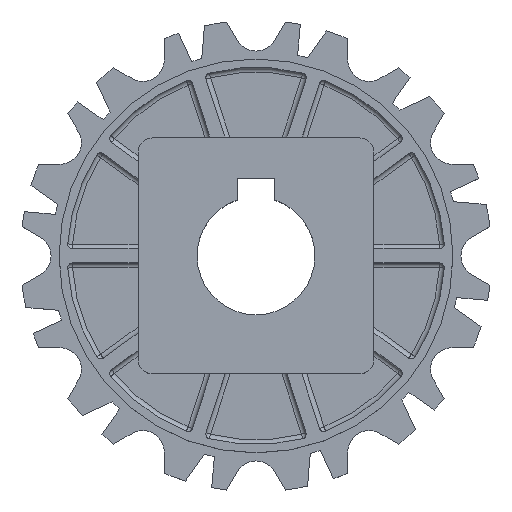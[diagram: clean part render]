
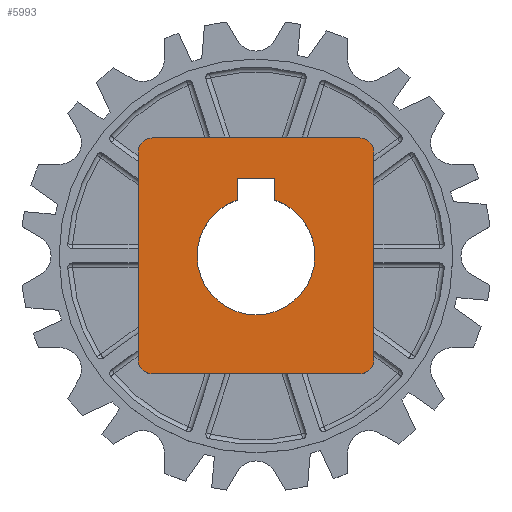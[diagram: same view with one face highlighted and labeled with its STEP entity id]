
A CAD part, top view. The second image highlights one B-rep face of the part: STEP entity #5993.
In plain terms, the highlighted planar face has unit normal (0, 0, 1).
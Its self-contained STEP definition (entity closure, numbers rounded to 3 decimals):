
#18 = DIRECTION ( 'NONE',  ( 0., 1., 0. ) ) ;
#164 = CIRCLE ( 'NONE', #6079, 12.5 ) ;
#310 = CARTESIAN_POINT ( 'NONE',  ( 25., -22., 17.875 ) ) ;
#474 = AXIS2_PLACEMENT_3D ( 'NONE', #5404, #9596, #7875 ) ;
#493 = FACE_BOUND ( 'NONE', #8230, .T. ) ;
#745 = VERTEX_POINT ( 'NONE', #898 ) ;
#779 = CARTESIAN_POINT ( 'NONE',  ( 0., 0., 17.875 ) ) ;
#864 = DIRECTION ( 'NONE',  ( 1., 0., 0. ) ) ;
#865 = CARTESIAN_POINT ( 'NONE',  ( 22., -25., 17.875 ) ) ;
#898 = CARTESIAN_POINT ( 'NONE',  ( -22., 25., 17.875 ) ) ;
#935 = ORIENTED_EDGE ( 'NONE', *, *, #5475, .T. ) ;
#975 = DIRECTION ( 'NONE',  ( -1., 0., 0. ) ) ;
#1396 = CARTESIAN_POINT ( 'NONE',  ( -25., -22., 17.875 ) ) ;
#1452 = VECTOR ( 'NONE', #9871, 1000. ) ;
#1490 = CARTESIAN_POINT ( 'NONE',  ( -22., -25., 17.875 ) ) ;
#1604 = VECTOR ( 'NONE', #975, 1000. ) ;
#1775 = AXIS2_PLACEMENT_3D ( 'NONE', #11054, #3403, #864 ) ;
#1785 = VECTOR ( 'NONE', #5619, 1000. ) ;
#2081 = AXIS2_PLACEMENT_3D ( 'NONE', #8390, #9067, #7558 ) ;
#2324 = CARTESIAN_POINT ( 'NONE',  ( -4., 11.843, 17.875 ) ) ;
#2382 = DIRECTION ( 'NONE',  ( 1., 0., 0. ) ) ;
#2459 = LINE ( 'NONE', #10956, #9774 ) ;
#2463 = CIRCLE ( 'NONE', #474, 12.5 ) ;
#2551 = ORIENTED_EDGE ( 'NONE', *, *, #9728, .T. ) ;
#2601 = CARTESIAN_POINT ( 'NONE',  ( -4., 16.5, 17.875 ) ) ;
#2682 = CIRCLE ( 'NONE', #1775, 3. ) ;
#2765 = DIRECTION ( 'NONE',  ( 1., 0., 0. ) ) ;
#2880 = CARTESIAN_POINT ( 'NONE',  ( 12.5, 0., 17.875 ) ) ;
#3014 = DIRECTION ( 'NONE',  ( 0., 0., -1. ) ) ;
#3020 = CIRCLE ( 'NONE', #5512, 12.5 ) ;
#3133 = CIRCLE ( 'NONE', #4550, 3. ) ;
#3244 = EDGE_CURVE ( 'NONE', #7704, #7346, #3558, .T. ) ;
#3270 = CARTESIAN_POINT ( 'NONE',  ( 22., -22., 17.875 ) ) ;
#3276 = LINE ( 'NONE', #2324, #1785 ) ;
#3403 = DIRECTION ( 'NONE',  ( 0., 0., 1. ) ) ;
#3558 = LINE ( 'NONE', #2601, #9391 ) ;
#3566 = LINE ( 'NONE', #7701, #3746 ) ;
#3616 = CARTESIAN_POINT ( 'NONE',  ( 0., -25., 17.875 ) ) ;
#3746 = VECTOR ( 'NONE', #18, 1000. ) ;
#3889 = DIRECTION ( 'NONE',  ( 0., 0., 1. ) ) ;
#3897 = VECTOR ( 'NONE', #7805, 1000. ) ;
#3911 = CARTESIAN_POINT ( 'NONE',  ( 0., 0., 17.875 ) ) ;
#3934 = FACE_OUTER_BOUND ( 'NONE', #5513, .T. ) ;
#4117 = ORIENTED_EDGE ( 'NONE', *, *, #4929, .T. ) ;
#4197 = VERTEX_POINT ( 'NONE', #9423 ) ;
#4449 = EDGE_CURVE ( 'NONE', #10741, #4974, #3133, .T. ) ;
#4550 = AXIS2_PLACEMENT_3D ( 'NONE', #3270, #5728, #10862 ) ;
#4637 = DIRECTION ( 'NONE',  ( -1., 0., 0. ) ) ;
#4785 = DIRECTION ( 'NONE',  ( 0., 0., 1. ) ) ;
#4827 = AXIS2_PLACEMENT_3D ( 'NONE', #10872, #3889, #2382 ) ;
#4929 = EDGE_CURVE ( 'NONE', #4197, #8755, #164, .T. ) ;
#4937 = ORIENTED_EDGE ( 'NONE', *, *, #9996, .T. ) ;
#4974 = VERTEX_POINT ( 'NONE', #310 ) ;
#4979 = VERTEX_POINT ( 'NONE', #7833 ) ;
#4983 = PLANE ( 'NONE',  #2081 ) ;
#5234 = LINE ( 'NONE', #8644, #1604 ) ;
#5404 = CARTESIAN_POINT ( 'NONE',  ( 0., 0., 17.875 ) ) ;
#5475 = EDGE_CURVE ( 'NONE', #745, #4979, #7074, .T. ) ;
#5512 = AXIS2_PLACEMENT_3D ( 'NONE', #3911, #3014, #4637 ) ;
#5513 = EDGE_LOOP ( 'NONE', ( #6634, #2551, #935, #10365, #4937, #6930, #8722, #6039 ) ) ;
#5619 = DIRECTION ( 'NONE',  ( 0., 1., 0. ) ) ;
#5728 = DIRECTION ( 'NONE',  ( 0., 0., 1. ) ) ;
#5870 = DIRECTION ( 'NONE',  ( 0., -1., 0. ) ) ;
#5993 = ADVANCED_FACE ( 'NONE', ( #493, #3934 ), #4983, .T. ) ;
#6002 = VERTEX_POINT ( 'NONE', #1396 ) ;
#6039 = ORIENTED_EDGE ( 'NONE', *, *, #9713, .T. ) ;
#6079 = AXIS2_PLACEMENT_3D ( 'NONE', #779, #8557, #8616 ) ;
#6449 = EDGE_CURVE ( 'NONE', #7346, #9221, #2459, .T. ) ;
#6465 = DIRECTION ( 'NONE',  ( 1., 0., 0. ) ) ;
#6477 = CARTESIAN_POINT ( 'NONE',  ( -4., 16.5, 17.875 ) ) ;
#6483 = CARTESIAN_POINT ( 'NONE',  ( 25., 22., 17.875 ) ) ;
#6518 = CARTESIAN_POINT ( 'NONE',  ( -22., 22., 17.875 ) ) ;
#6570 = EDGE_CURVE ( 'NONE', #9221, #6908, #2463, .T. ) ;
#6622 = ORIENTED_EDGE ( 'NONE', *, *, #3244, .T. ) ;
#6630 = CARTESIAN_POINT ( 'NONE',  ( -25., 0., 17.875 ) ) ;
#6634 = ORIENTED_EDGE ( 'NONE', *, *, #9712, .T. ) ;
#6908 = VERTEX_POINT ( 'NONE', #2880 ) ;
#6925 = EDGE_CURVE ( 'NONE', #8459, #10741, #7966, .T. ) ;
#6930 = ORIENTED_EDGE ( 'NONE', *, *, #6925, .T. ) ;
#6980 = VERTEX_POINT ( 'NONE', #9642 ) ;
#6999 = CARTESIAN_POINT ( 'NONE',  ( 4., 16.5, 17.875 ) ) ;
#7074 = CIRCLE ( 'NONE', #8153, 3. ) ;
#7346 = VERTEX_POINT ( 'NONE', #6999 ) ;
#7558 = DIRECTION ( 'NONE',  ( 1., 0., 0. ) ) ;
#7692 = ORIENTED_EDGE ( 'NONE', *, *, #6570, .T. ) ;
#7701 = CARTESIAN_POINT ( 'NONE',  ( 25., 0., 17.875 ) ) ;
#7704 = VERTEX_POINT ( 'NONE', #6477 ) ;
#7730 = EDGE_CURVE ( 'NONE', #6908, #4197, #3020, .T. ) ;
#7805 = DIRECTION ( 'NONE',  ( 1., 0., 0. ) ) ;
#7833 = CARTESIAN_POINT ( 'NONE',  ( -25., 22., 17.875 ) ) ;
#7875 = DIRECTION ( 'NONE',  ( -1., 0., 0. ) ) ;
#7963 = VERTEX_POINT ( 'NONE', #6483 ) ;
#7966 = LINE ( 'NONE', #3616, #3897 ) ;
#8033 = CIRCLE ( 'NONE', #4827, 3. ) ;
#8153 = AXIS2_PLACEMENT_3D ( 'NONE', #6518, #4785, #6465 ) ;
#8230 = EDGE_LOOP ( 'NONE', ( #10847, #7692, #9926, #4117, #10325, #6622 ) ) ;
#8390 = CARTESIAN_POINT ( 'NONE',  ( 0., 0., 17.875 ) ) ;
#8459 = VERTEX_POINT ( 'NONE', #1490 ) ;
#8557 = DIRECTION ( 'NONE',  ( 0., 0., -1. ) ) ;
#8616 = DIRECTION ( 'NONE',  ( -1., 0., 0. ) ) ;
#8644 = CARTESIAN_POINT ( 'NONE',  ( 0., 25., 17.875 ) ) ;
#8722 = ORIENTED_EDGE ( 'NONE', *, *, #4449, .T. ) ;
#8755 = VERTEX_POINT ( 'NONE', #10704 ) ;
#9067 = DIRECTION ( 'NONE',  ( 0., 0., 1. ) ) ;
#9221 = VERTEX_POINT ( 'NONE', #11010 ) ;
#9391 = VECTOR ( 'NONE', #2765, 1000. ) ;
#9423 = CARTESIAN_POINT ( 'NONE',  ( -12.5, 0., 17.875 ) ) ;
#9596 = DIRECTION ( 'NONE',  ( 0., 0., -1. ) ) ;
#9642 = CARTESIAN_POINT ( 'NONE',  ( 22., 25., 17.875 ) ) ;
#9712 = EDGE_CURVE ( 'NONE', #7963, #6980, #2682, .T. ) ;
#9713 = EDGE_CURVE ( 'NONE', #4974, #7963, #3566, .T. ) ;
#9728 = EDGE_CURVE ( 'NONE', #6980, #745, #5234, .T. ) ;
#9774 = VECTOR ( 'NONE', #5870, 1000. ) ;
#9871 = DIRECTION ( 'NONE',  ( 0., -1., 0. ) ) ;
#9926 = ORIENTED_EDGE ( 'NONE', *, *, #7730, .T. ) ;
#9932 = EDGE_CURVE ( 'NONE', #8755, #7704, #3276, .T. ) ;
#9996 = EDGE_CURVE ( 'NONE', #6002, #8459, #8033, .T. ) ;
#10325 = ORIENTED_EDGE ( 'NONE', *, *, #9932, .T. ) ;
#10365 = ORIENTED_EDGE ( 'NONE', *, *, #11073, .T. ) ;
#10704 = CARTESIAN_POINT ( 'NONE',  ( -4., 11.843, 17.875 ) ) ;
#10741 = VERTEX_POINT ( 'NONE', #865 ) ;
#10816 = LINE ( 'NONE', #6630, #1452 ) ;
#10847 = ORIENTED_EDGE ( 'NONE', *, *, #6449, .T. ) ;
#10862 = DIRECTION ( 'NONE',  ( 1., 0., 0. ) ) ;
#10872 = CARTESIAN_POINT ( 'NONE',  ( -22., -22., 17.875 ) ) ;
#10956 = CARTESIAN_POINT ( 'NONE',  ( 4., 11.843, 17.875 ) ) ;
#11010 = CARTESIAN_POINT ( 'NONE',  ( 4., 11.843, 17.875 ) ) ;
#11054 = CARTESIAN_POINT ( 'NONE',  ( 22., 22., 17.875 ) ) ;
#11073 = EDGE_CURVE ( 'NONE', #4979, #6002, #10816, .T. ) ;
